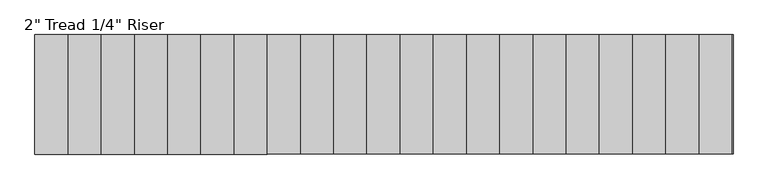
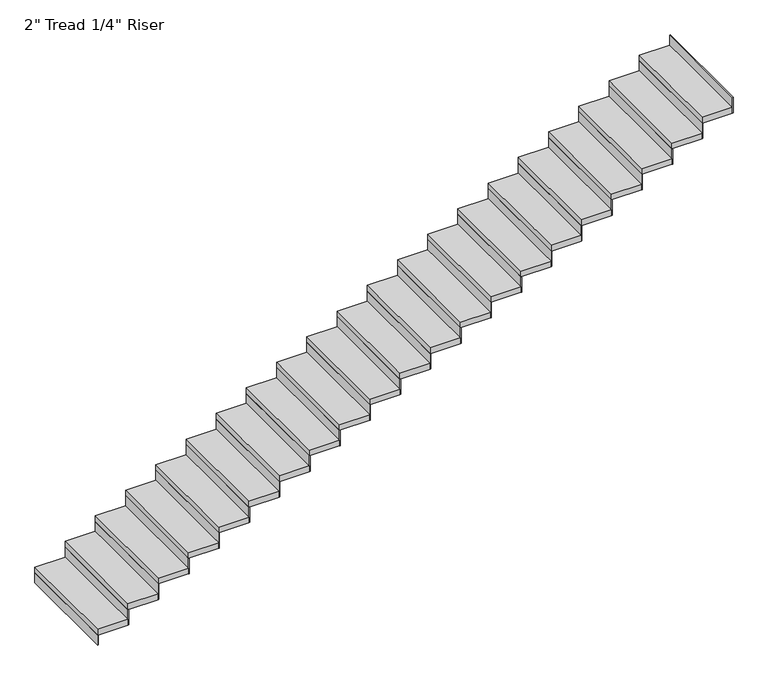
"""IFC4 building model written with IfcOpenShell, lengths in millimetres: stair flight geometry."""

from ifc_helpers import new_model, si_unit, frame, origin, origin_with_axes, place, context, project, spatial, polyline, outline, extrude, source, transform, mapped, element, save


def stair_flight_75b3b417(model_context):
    return source(origin(), model_context, "Body", "SweptSolid", [
        extrude(outline(polyline([(12122.4949767, 34092.864764), (12116.1449767, 34092.864764), (12116.1449767, 35007.264764), (12122.4949767, 35007.264764), (12122.4949767, 34092.864764)])), origin_with_axes(), (0.0, 0.0, 1.0), 87.7454545),
        extrude(outline(polyline([(12370.1449767, 35007.264764), (12370.1449767, 34092.864764), (12116.1449767, 34092.864764), (12116.1449767, 35007.264764), (12370.1449767, 35007.264764)])), frame((0.0, 0.0, 87.7454545), z_axis=(0.0, 0.0, 1.0), x_axis=(1.0, 0.0, 0.0)), (0.0, 0.0, 1.0), 50.8),
        extrude(outline(polyline([(12376.4949767, 34092.864764), (12370.1449767, 34092.864764), (12370.1449767, 35007.264764), (12376.4949767, 35007.264764), (12376.4949767, 34092.864764)])), frame((0.0, 0.0, 87.7454545), z_axis=(0.0, 0.0, 1.0), x_axis=(1.0, 0.0, 0.0)), (0.0, 0.0, 1.0), 138.5454545),
        extrude(outline(polyline([(12624.1449767, 35007.264764), (12624.1449767, 34092.864764), (12370.1449767, 34092.864764), (12370.1449767, 35007.264764), (12624.1449767, 35007.264764)])), frame((0.0, 0.0, 226.2909091), z_axis=(0.0, 0.0, 1.0), x_axis=(1.0, 0.0, 0.0)), (0.0, 0.0, 1.0), 50.8),
        extrude(outline(polyline([(12630.4949767, 34092.864764), (12624.1449767, 34092.864764), (12624.1449767, 35007.264764), (12630.4949767, 35007.264764), (12630.4949767, 34092.864764)])), frame((0.0, 0.0, 226.2909091), z_axis=(0.0, 0.0, 1.0), x_axis=(1.0, 0.0, 0.0)), (0.0, 0.0, 1.0), 138.5454545),
        extrude(outline(polyline([(12878.1449767, 35007.264764), (12878.1449767, 34092.864764), (12624.1449767, 34092.864764), (12624.1449767, 35007.264764), (12878.1449767, 35007.264764)])), frame((0.0, 0.0, 364.8363636), z_axis=(0.0, 0.0, 1.0), x_axis=(1.0, 0.0, 0.0)), (0.0, 0.0, 1.0), 50.8),
        extrude(outline(polyline([(12884.4949767, 34092.864764), (12878.1449767, 34092.864764), (12878.1449767, 35007.264764), (12884.4949767, 35007.264764), (12884.4949767, 34092.864764)])), frame((0.0, 0.0, 364.8363636), z_axis=(0.0, 0.0, 1.0), x_axis=(1.0, 0.0, 0.0)), (0.0, 0.0, 1.0), 138.5454545),
        extrude(outline(polyline([(13132.1449767, 35007.264764), (13132.1449767, 34092.864764), (12878.1449767, 34092.864764), (12878.1449767, 35007.264764), (13132.1449767, 35007.264764)])), frame((0.0, 0.0, 503.3818182), z_axis=(0.0, 0.0, 1.0), x_axis=(1.0, 0.0, 0.0)), (0.0, 0.0, 1.0), 50.8),
        extrude(outline(polyline([(13138.4949767, 34092.864764), (13132.1449767, 34092.864764), (13132.1449767, 35007.264764), (13138.4949767, 35007.264764), (13138.4949767, 34092.864764)])), frame((0.0, 0.0, 503.3818182), z_axis=(0.0, 0.0, 1.0), x_axis=(1.0, 0.0, 0.0)), (0.0, 0.0, 1.0), 138.5454545),
        extrude(outline(polyline([(13386.1449767, 35007.264764), (13386.1449767, 34092.864764), (13132.1449767, 34092.864764), (13132.1449767, 35007.264764), (13386.1449767, 35007.264764)])), frame((0.0, 0.0, 641.9272727), z_axis=(0.0, 0.0, 1.0), x_axis=(1.0, 0.0, 0.0)), (0.0, 0.0, 1.0), 50.8),
        extrude(outline(polyline([(13392.4949767, 34092.864764), (13386.1449767, 34092.864764), (13386.1449767, 35007.264764), (13392.4949767, 35007.264764), (13392.4949767, 34092.864764)])), frame((0.0, 0.0, 641.9272727), z_axis=(0.0, 0.0, 1.0), x_axis=(1.0, 0.0, 0.0)), (0.0, 0.0, 1.0), 138.5454545),
        extrude(outline(polyline([(13640.1449767, 35007.264764), (13640.1449767, 34092.864764), (13386.1449767, 34092.864764), (13386.1449767, 35007.264764), (13640.1449767, 35007.264764)])), frame((0.0, 0.0, 780.4727273), z_axis=(0.0, 0.0, 1.0), x_axis=(1.0, 0.0, 0.0)), (0.0, 0.0, 1.0), 50.8),
        extrude(outline(polyline([(13646.4949767, 34092.864764), (13640.1449767, 34092.864764), (13640.1449767, 35007.264764), (13646.4949767, 35007.264764), (13646.4949767, 34092.864764)])), frame((0.0, 0.0, 780.4727273), z_axis=(0.0, 0.0, 1.0), x_axis=(1.0, 0.0, 0.0)), (0.0, 0.0, 1.0), 138.5454545),
        extrude(outline(polyline([(13894.1449767, 35007.264764), (13894.1449767, 34092.864764), (13640.1449767, 34092.864764), (13640.1449767, 35007.264764), (13894.1449767, 35007.264764)])), frame((0.0, 0.0, 919.0181818), z_axis=(0.0, 0.0, 1.0), x_axis=(1.0, 0.0, 0.0)), (0.0, 0.0, 1.0), 50.8),
        extrude(outline(polyline([(13900.4949767, 34092.864764), (13894.1449767, 34092.864764), (13894.1449767, 35007.264764), (13900.4949767, 35007.264764), (13900.4949767, 34092.864764)])), frame((0.0, 0.0, 919.0181818), z_axis=(0.0, 0.0, 1.0), x_axis=(1.0, 0.0, 0.0)), (0.0, 0.0, 1.0), 138.5454545),
        extrude(outline(polyline([(14148.1449767, 35007.264764), (14148.1449767, 34092.864764), (13894.1449767, 34092.864764), (13894.1449767, 35007.264764), (14148.1449767, 35007.264764)])), frame((0.0, 0.0, 1057.5636364), z_axis=(0.0, 0.0, 1.0), x_axis=(1.0, 0.0, 0.0)), (0.0, 0.0, 1.0), 50.8),
        extrude(outline(polyline([(14154.4949767, 34092.864764), (14148.1449767, 34092.864764), (14148.1449767, 35007.264764), (14154.4949767, 35007.264764), (14154.4949767, 34092.864764)])), frame((0.0, 0.0, 1057.5636364), z_axis=(0.0, 0.0, 1.0), x_axis=(1.0, 0.0, 0.0)), (0.0, 0.0, 1.0), 138.5454545),
        extrude(outline(polyline([(14402.1449767, 35007.264764), (14402.1449767, 34092.864764), (14148.1449767, 34092.864764), (14148.1449767, 35007.264764), (14402.1449767, 35007.264764)])), frame((0.0, 0.0, 1196.1090909), z_axis=(0.0, 0.0, 1.0), x_axis=(1.0, 0.0, 0.0)), (0.0, 0.0, 1.0), 50.8),
        extrude(outline(polyline([(14408.4949767, 34092.864764), (14402.1449767, 34092.864764), (14402.1449767, 35007.264764), (14408.4949767, 35007.264764), (14408.4949767, 34092.864764)])), frame((0.0, 0.0, 1196.1090909), z_axis=(0.0, 0.0, 1.0), x_axis=(1.0, 0.0, 0.0)), (0.0, 0.0, 1.0), 138.5454545),
        extrude(outline(polyline([(14656.1449767, 35007.264764), (14656.1449767, 34092.864764), (14402.1449767, 34092.864764), (14402.1449767, 35007.264764), (14656.1449767, 35007.264764)])), frame((0.0, 0.0, 1334.6545455), z_axis=(0.0, 0.0, 1.0), x_axis=(1.0, 0.0, 0.0)), (0.0, 0.0, 1.0), 50.8),
        extrude(outline(polyline([(14662.4949767, 34092.864764), (14656.1449767, 34092.864764), (14656.1449767, 35007.264764), (14662.4949767, 35007.264764), (14662.4949767, 34092.864764)])), frame((0.0, 0.0, 1334.6545455), z_axis=(0.0, 0.0, 1.0), x_axis=(1.0, 0.0, 0.0)), (0.0, 0.0, 1.0), 138.5454545),
        extrude(outline(polyline([(14910.1449767, 35007.264764), (14910.1449767, 34092.864764), (14656.1449767, 34092.864764), (14656.1449767, 35007.264764), (14910.1449767, 35007.264764)])), frame((0.0, 0.0, 1473.2), z_axis=(0.0, 0.0, 1.0), x_axis=(1.0, 0.0, 0.0)), (0.0, 0.0, 1.0), 50.8),
        extrude(outline(polyline([(14916.4949767, 34092.864764), (14910.1449767, 34092.864764), (14910.1449767, 35007.264764), (14916.4949767, 35007.264764), (14916.4949767, 34092.864764)])), frame((0.0, 0.0, 1473.2), z_axis=(0.0, 0.0, 1.0), x_axis=(1.0, 0.0, 0.0)), (0.0, 0.0, 1.0), 138.5454545),
        extrude(outline(polyline([(15164.1449767, 35007.264764), (15164.1449767, 34092.864764), (14910.1449767, 34092.864764), (14910.1449767, 35007.264764), (15164.1449767, 35007.264764)])), frame((0.0, 0.0, 1611.7454545), z_axis=(0.0, 0.0, 1.0), x_axis=(1.0, 0.0, 0.0)), (0.0, 0.0, 1.0), 50.8),
        extrude(outline(polyline([(15170.4949767, 34092.864764), (15164.1449767, 34092.864764), (15164.1449767, 35007.264764), (15170.4949767, 35007.264764), (15170.4949767, 34092.864764)])), frame((0.0, 0.0, 1611.7454545), z_axis=(0.0, 0.0, 1.0), x_axis=(1.0, 0.0, 0.0)), (0.0, 0.0, 1.0), 138.5454545),
        extrude(outline(polyline([(15418.1449767, 35007.264764), (15418.1449767, 34092.864764), (15164.1449767, 34092.864764), (15164.1449767, 35007.264764), (15418.1449767, 35007.264764)])), frame((0.0, 0.0, 1750.2909091), z_axis=(0.0, 0.0, 1.0), x_axis=(1.0, 0.0, 0.0)), (0.0, 0.0, 1.0), 50.8),
        extrude(outline(polyline([(15424.4949767, 34092.864764), (15418.1449767, 34092.864764), (15418.1449767, 35007.264764), (15424.4949767, 35007.264764), (15424.4949767, 34092.864764)])), frame((0.0, 0.0, 1750.2909091), z_axis=(0.0, 0.0, 1.0), x_axis=(1.0, 0.0, 0.0)), (0.0, 0.0, 1.0), 138.5454545),
        extrude(outline(polyline([(15672.1449767, 35007.264764), (15672.1449767, 34092.864764), (15418.1449767, 34092.864764), (15418.1449767, 35007.264764), (15672.1449767, 35007.264764)])), frame((0.0, 0.0, 1888.8363636), z_axis=(0.0, 0.0, 1.0), x_axis=(1.0, 0.0, 0.0)), (0.0, 0.0, 1.0), 50.8),
        extrude(outline(polyline([(15678.4949767, 34092.864764), (15672.1449767, 34092.864764), (15672.1449767, 35007.264764), (15678.4949767, 35007.264764), (15678.4949767, 34092.864764)])), frame((0.0, 0.0, 1888.8363636), z_axis=(0.0, 0.0, 1.0), x_axis=(1.0, 0.0, 0.0)), (0.0, 0.0, 1.0), 138.5454545),
        extrude(outline(polyline([(15926.1449767, 35007.264764), (15926.1449767, 34092.864764), (15672.1449767, 34092.864764), (15672.1449767, 35007.264764), (15926.1449767, 35007.264764)])), frame((0.0, 0.0, 2027.3818182), z_axis=(0.0, 0.0, 1.0), x_axis=(1.0, 0.0, 0.0)), (0.0, 0.0, 1.0), 50.8),
        extrude(outline(polyline([(15932.4949767, 34092.864764), (15926.1449767, 34092.864764), (15926.1449767, 35007.264764), (15932.4949767, 35007.264764), (15932.4949767, 34092.864764)])), frame((0.0, 0.0, 2027.3818182), z_axis=(0.0, 0.0, 1.0), x_axis=(1.0, 0.0, 0.0)), (0.0, 0.0, 1.0), 138.5454545),
        extrude(outline(polyline([(16180.1449767, 35007.264764), (16180.1449767, 34092.864764), (15926.1449767, 34092.864764), (15926.1449767, 35007.264764), (16180.1449767, 35007.264764)])), frame((0.0, 0.0, 2165.9272727), z_axis=(0.0, 0.0, 1.0), x_axis=(1.0, 0.0, 0.0)), (0.0, 0.0, 1.0), 50.8),
        extrude(outline(polyline([(16186.4949767, 34092.864764), (16180.1449767, 34092.864764), (16180.1449767, 35007.264764), (16186.4949767, 35007.264764), (16186.4949767, 34092.864764)])), frame((0.0, 0.0, 2165.9272727), z_axis=(0.0, 0.0, 1.0), x_axis=(1.0, 0.0, 0.0)), (0.0, 0.0, 1.0), 138.5454545),
        extrude(outline(polyline([(16434.1449767, 35007.264764), (16434.1449767, 34092.864764), (16180.1449767, 34092.864764), (16180.1449767, 35007.264764), (16434.1449767, 35007.264764)])), frame((0.0, 0.0, 2304.4727273), z_axis=(0.0, 0.0, 1.0), x_axis=(1.0, 0.0, 0.0)), (0.0, 0.0, 1.0), 50.8),
        extrude(outline(polyline([(16440.4949767, 34092.864764), (16434.1449767, 34092.864764), (16434.1449767, 35007.264764), (16440.4949767, 35007.264764), (16440.4949767, 34092.864764)])), frame((0.0, 0.0, 2304.4727273), z_axis=(0.0, 0.0, 1.0), x_axis=(1.0, 0.0, 0.0)), (0.0, 0.0, 1.0), 138.5454545),
        extrude(outline(polyline([(16688.1449767, 35007.264764), (16688.1449767, 34092.864764), (16434.1449767, 34092.864764), (16434.1449767, 35007.264764), (16688.1449767, 35007.264764)])), frame((0.0, 0.0, 2443.0181818), z_axis=(0.0, 0.0, 1.0), x_axis=(1.0, 0.0, 0.0)), (0.0, 0.0, 1.0), 50.8),
        extrude(outline(polyline([(16694.4949767, 34092.864764), (16688.1449767, 34092.864764), (16688.1449767, 35007.264764), (16694.4949767, 35007.264764), (16694.4949767, 34092.864764)])), frame((0.0, 0.0, 2443.0181818), z_axis=(0.0, 0.0, 1.0), x_axis=(1.0, 0.0, 0.0)), (0.0, 0.0, 1.0), 138.5454545),
        extrude(outline(polyline([(16942.1449767, 35007.264764), (16942.1449767, 34092.864764), (16688.1449767, 34092.864764), (16688.1449767, 35007.264764), (16942.1449767, 35007.264764)])), frame((0.0, 0.0, 2581.5636364), z_axis=(0.0, 0.0, 1.0), x_axis=(1.0, 0.0, 0.0)), (0.0, 0.0, 1.0), 50.8),
        extrude(outline(polyline([(16948.4949767, 34092.864764), (16942.1449767, 34092.864764), (16942.1449767, 35007.264764), (16948.4949767, 35007.264764), (16948.4949767, 34092.864764)])), frame((0.0, 0.0, 2581.5636364), z_axis=(0.0, 0.0, 1.0), x_axis=(1.0, 0.0, 0.0)), (0.0, 0.0, 1.0), 138.5454545),
        extrude(outline(polyline([(17196.1449767, 35007.264764), (17196.1449767, 34092.864764), (16942.1449767, 34092.864764), (16942.1449767, 35007.264764), (17196.1449767, 35007.264764)])), frame((0.0, 0.0, 2720.1090909), z_axis=(0.0, 0.0, 1.0), x_axis=(1.0, 0.0, 0.0)), (0.0, 0.0, 1.0), 50.8),
        extrude(outline(polyline([(17202.4949767, 34092.864764), (17196.1449767, 34092.864764), (17196.1449767, 35007.264764), (17202.4949767, 35007.264764), (17202.4949767, 34092.864764)])), frame((0.0, 0.0, 2720.1090909), z_axis=(0.0, 0.0, 1.0), x_axis=(1.0, 0.0, 0.0)), (0.0, 0.0, 1.0), 138.5454545),
        extrude(outline(polyline([(17456.4949767, 34092.864764), (17450.1449767, 34092.864764), (17450.1449767, 35007.264764), (17456.4949767, 35007.264764), (17456.4949767, 34092.864764)])), frame((0.0, 0.0, 2858.6545455), z_axis=(0.0, 0.0, 1.0), x_axis=(1.0, 0.0, 0.0)), (0.0, 0.0, 1.0), 138.5454545),
        extrude(outline(polyline([(17450.1449767, 35007.264764), (17450.1449767, 34092.864764), (17196.1449767, 34092.864764), (17196.1449767, 35007.264764), (17450.1449767, 35007.264764)])), frame((0.0, 0.0, 2858.6545455), z_axis=(0.0, 0.0, 1.0), x_axis=(1.0, 0.0, 0.0)), (0.0, 0.0, 1.0), 50.8),
    ])


if __name__ == "__main__":
    model = new_model("IFC4")
    model_context = context("Model", 3, world=origin())
    ifc_project = project(units=[si_unit("LENGTHUNIT", "METRE", prefix="MILLI")], contexts=[model_context])
    site = spatial("IfcSite", under=ifc_project)
    building = spatial("IfcBuilding", under=site)
    placement = place(None, origin())
    stair_flight_shape = stair_flight_75b3b417(model_context)
    element("IfcStairFlight", 1, ObjectType="2\" Tread 1/4\" Riser", at=placement, inside=building, context=model_context, shape_type="MappedRepresentation", body=[
        mapped(stair_flight_shape, transform((0.0, 0.0, 0.0), x_axis=(1.0, 0.0, 0.0), y_axis=(0.0, 1.0, 0.0), z_axis=(0.0, 0.0, 1.0))),
    ])
    save(model, "model.ifc")
